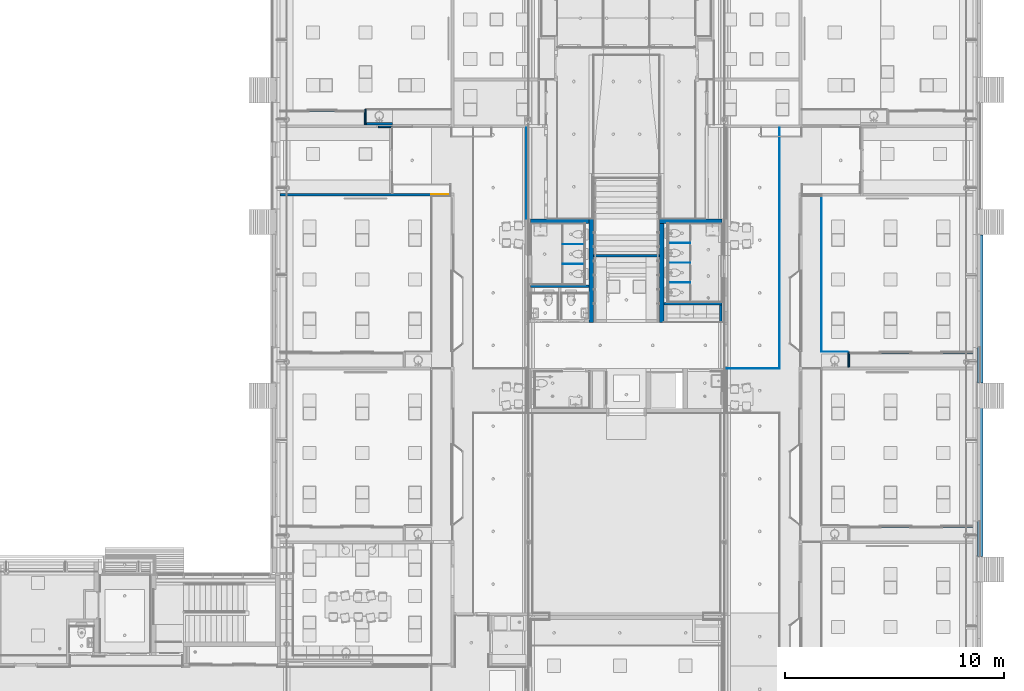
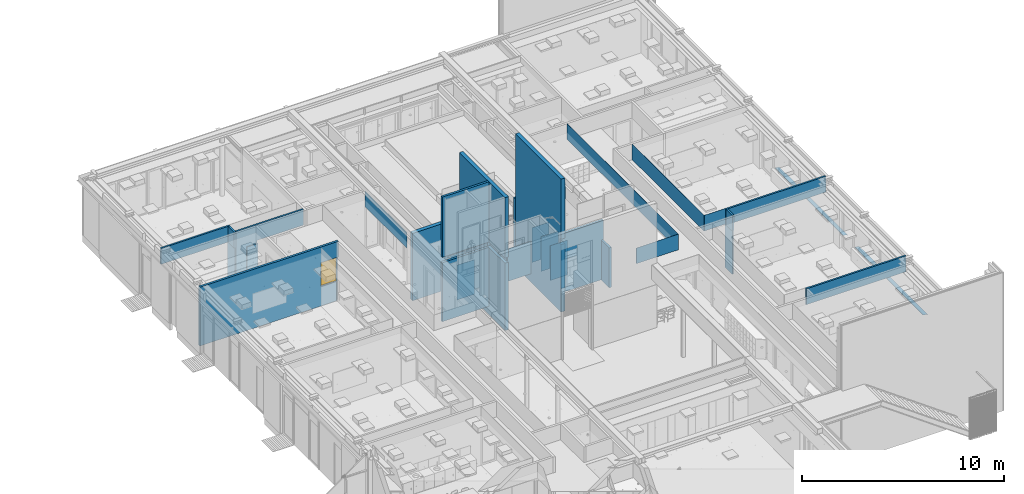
# One storey, part 78 of 347: 30 walls, 1 window, 2 openings.
"""IFC2X3 building model written with IfcOpenShell, lengths in millimetres."""

from ifc_helpers import new_model, entity, si_unit, converted_unit, derived_unit, money_unit, direction, frame, origin_with_axes, place, context, subcontext, project, spatial, open_shell, faceted_brep, surface_model, material, type_object, element, fill, save


model = new_model("IFC2X3")

# Units and contexts
model_context = context("Model", 3, precision=0.01, world=origin_with_axes(), true_north=direction((0.0, 1.0)))
plan_context = context("Plan", 3, precision=0.01, world=origin_with_axes(), true_north=direction((0.0, 1.0)))
body_context = subcontext(model_context, "Body", "Model", "MODEL_VIEW")
ifc_project = project(units=[si_unit("LENGTHUNIT", "METRE", prefix="MILLI"), si_unit("AREAUNIT", "SQUARE_METRE"), si_unit("VOLUMEUNIT", "CUBIC_METRE"), converted_unit("PLANEANGLEUNIT", "DEGREE", entity("IfcPlaneAngleMeasure", 0.0174532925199), si_unit("PLANEANGLEUNIT", "RADIAN"), dimensions=[0, 0, 0, 0, 0, 0, 0]), money_unit("EUR"), converted_unit("TIMEUNIT", "Year", entity("IfcTimeMeasure", 31556926.0), si_unit("TIMEUNIT", "SECOND"), dimensions=[0, 0, 1, 0, 0, 0, 0]), si_unit("MASSUNIT", "GRAM", prefix="KILO"), si_unit("THERMODYNAMICTEMPERATUREUNIT", "DEGREE_CELSIUS"), si_unit("LUMINOUSINTENSITYUNIT", "LUMEN"), si_unit("ENERGYUNIT", "JOULE", prefix="MEGA"), derived_unit("THERMALCONDUCTANCEUNIT", [(si_unit("POWERUNIT", "WATT"), 1), (si_unit("LENGTHUNIT", "METRE"), -1), (si_unit("THERMODYNAMICTEMPERATUREUNIT", "KELVIN"), -1)]), derived_unit("SPECIFICHEATCAPACITYUNIT", [(si_unit("ENERGYUNIT", "JOULE"), 1), (si_unit("MASSUNIT", "GRAM", prefix="KILO"), -1), (si_unit("THERMODYNAMICTEMPERATUREUNIT", "KELVIN"), -1)]), derived_unit("MASSDENSITYUNIT", [(si_unit("MASSUNIT", "GRAM", prefix="KILO"), 1), (si_unit("VOLUMEUNIT", "CUBIC_METRE"), -1)])], contexts=[model_context, plan_context])

# Site, building, storey
site_placement = place(None, origin_with_axes())
site = spatial("IfcSite", under=ifc_project, at=site_placement, Name="Site", CompositionType="ELEMENT")
building_placement = place(site_placement, origin_with_axes())
building = spatial("IfcBuilding", under=site, at=building_placement, Name="Naam gebouw", CompositionType="ELEMENT")
storey_placement = place(building_placement, origin_with_axes())
storey = spatial("IfcBuildingStorey", under=building, at=storey_placement, Name="begane grond", CompositionType="ELEMENT", Elevation=0.0)

# Walls
ifc_material_1 = material(Name="Beton gewapend prefab wand")
wall_type_1 = type_object("IfcWallType", Name="Betonwand 200 210", PredefinedType="NOTDEFINED")
wall_1_placement = place(storey_placement, frame((38575.0, 30074.9999277, -510.0), z_axis=(0.0, 0.0, 1.0), x_axis=(0.0, 1.0, 0.0)))
element("IfcWall", 1, at=wall_1_placement, inside=storey, type_object=wall_type_1, material=ifc_material_1, Name="21_21 betonwand", context=body_context, shape_type="Brep", body=[
    faceted_brep([(4515.00007235, 0.0, 4070.0), (4515.00007235, 60.000071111, 4070.0), (4515.00007235, 60.000071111, 4390.0), (4515.00007235, 210.0, 4390.0), (4515.00007235, 210.0, 8030.0), (4515.00007235, 0.0, 8030.0), (4725.00007235, 0.0, 4070.0), (4725.00007235, 210.0, 4070.0), (4515.00007235, 210.0, 4070.0), (3652.49995906, 210.0, 4070.0), (3652.49995906, 60.000071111, 4070.0), (3652.49995906, 60.000071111, 4390.0), (3652.49995906, 210.0, 4390.0), (4725.00007235, 210.0, 0.0), (0.0, 210.0, 0.0), (0.0, 210.0, 510.0), (0.0, 210.0, 4070.0), (1714.9999852, 210.0, 4070.0), (1714.9999852, 210.0, 4390.0), (0.0, 210.0, 4390.0), (0.0, 210.0, 8030.0), (0.0, 0.0, 8030.0), (0.0, 0.0, 4390.0), (124.999917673, 0.0, 4390.0), (124.999917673, 0.0, 4070.0), (0.0, 0.0, 4070.0), (0.0, 0.0, 510.0), (0.0, 0.0, 0.0), (4725.00007235, 0.0, 0.0), (124.999917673, 60.000071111, 4070.0), (1714.9999852, 60.000071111, 4070.0), (1714.9999852, 60.000071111, 4390.0), (124.999917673, 60.000071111, 4390.0)], [[[0, 1, 2, 3, 4, 5]], [[6, 7, 8, 9, 10, 1, 0]], [[10, 11, 2, 1]], [[11, 12, 3, 2]], [[3, 12, 9, 8, 7, 13, 14, 15, 16, 17, 18, 19, 20, 4]], [[5, 4, 20, 21]], [[22, 23, 24, 25, 26, 27, 28, 6, 0, 5, 21]], [[7, 6, 28, 13]], [[11, 10, 9, 12]], [[27, 14, 13, 28]], [[26, 25, 16, 15, 14, 27]], [[25, 24, 29, 30, 17, 16]], [[30, 31, 18, 17]], [[23, 22, 19, 18, 31, 32]], [[21, 20, 19, 22]], [[24, 23, 32, 29]], [[31, 30, 29, 32]]]),
])
wall_2_placement = place(storey_placement, frame((35705.0, 34590.0, -510.0), z_axis=(0.0, 0.0, 1.0), x_axis=(1.0, 0.0, 0.0)))
element("IfcWall", 2, at=wall_2_placement, inside=storey, type_object=wall_type_1, material=ifc_material_1, Name="21_GF 125 ECO DGS/2.75.2A", context=body_context, shape_type="Brep", body=[
    faceted_brep([(0.0, 0.0, 4070.0), (2660.0, 0.0, 4070.0), (2660.0, 210.0, 4070.0), (0.0, 210.0, 4070.0), (2660.0, 0.0, 0.0), (0.0, 0.0, 0.0), (2660.0, 210.0, 0.0), (0.0, 210.0, 0.0)], [[[0, 1, 2, 3]], [[4, 1, 0, 5]], [[6, 2, 1, 4]], [[3, 2, 6, 7]], [[5, 0, 3, 7]], [[7, 6, 4, 5]]]),
])
wall_3_placement = place(storey_placement, frame((44445.0, 34590.0, -510.0), z_axis=(0.0, 0.0, 1.0), x_axis=(-1.0, 0.0, 0.0)))
element("IfcWall", 3, at=wall_3_placement, inside=storey, type_object=wall_type_1, material=ifc_material_1, Name="21_GF 125 ECO DGS/2.75.2A", context=body_context, shape_type="Brep", body=[
    faceted_brep([(0.0, -210.0, 4070.0), (0.0, -210.0, 0.0), (2870.0, -210.0, 0.0), (2870.0, -210.0, 4070.0), (0.0, 0.0, 4070.0), (0.0, 0.0, 0.0), (2870.0, 0.0, 0.0), (2870.0, 0.0, 4070.0)], [[[0, 1, 2, 3]], [[0, 4, 5, 1]], [[2, 1, 5, 6]], [[3, 2, 6, 7]], [[7, 4, 0, 3]], [[6, 5, 4, 7]]]),
])
wall_4_placement = place(storey_placement, frame((41575.0, 30074.9999277, -510.0), z_axis=(0.0, 0.0, 1.0), x_axis=(0.0, 1.0, 0.0)))
element("IfcWall", 4, at=wall_4_placement, inside=storey, type_object=wall_type_1, material=ifc_material_1, Name="21_21 betonwand", context=body_context, shape_type="Brep", body=[
    faceted_brep([(3050.00009658, -210.0, 4390.0), (3050.00009658, -210.0, 4070.0), (0.0, -210.0, 4070.0), (0.0, -210.0, 510.0), (0.0, -210.0, 0.0), (4515.00007235, -210.0, 0.0), (4515.00007235, -210.0, 4070.0), (3652.499951, -210.0, 4070.0), (3652.499951, -210.0, 4390.0), (4515.00007235, -210.0, 4390.0), (4515.00007235, -210.0, 8030.0), (0.0, -210.0, 8030.0), (0.0, -210.0, 4470.0), (0.0, -210.0, 4390.0), (3050.00009658, -59.9999771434, 4070.0), (3050.00009658, -59.9999771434, 4390.0), (7.0558606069e-05, 0.0, 4070.0), (124.999917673, -59.9999771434, 4070.0), (124.999917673, 0.0, 4070.0), (0.0, 0.0, 510.0), (0.0, 0.0, 0.0), (4515.00007235, 0.0, 0.0), (4515.00007235, -59.9999771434, 4390.0), (4515.00007235, -59.9999771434, 4070.0), (4515.00007235, 0.0, 4070.0), (4515.00007235, 0.0, 8030.0), (3652.499951, -59.9999771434, 4070.0), (3652.499951, -59.9999771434, 4390.0), (0.0, 0.0, 8030.0), (7.0558606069e-05, 0.0, 4390.0), (0.0, 0.0, 4470.0), (124.999917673, 0.0, 4390.0), (124.999917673, -59.9999771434, 4390.0)], [[[0, 1, 2, 3, 4, 5, 6, 7, 8, 9, 10, 11, 12, 13]], [[14, 1, 0, 15]], [[16, 2, 1, 14, 17, 18]], [[3, 2, 16, 19, 20, 4]], [[4, 20, 21, 5]], [[22, 23, 6, 5, 21, 24, 25, 10, 9]], [[26, 7, 6, 23]], [[27, 8, 7, 26]], [[27, 22, 9, 8]], [[25, 28, 11, 10]], [[29, 13, 12, 11, 28, 30]], [[31, 32, 15, 0, 13, 29]], [[15, 32, 17, 14]], [[18, 17, 32, 31]], [[18, 31, 29, 30, 28, 25, 24, 21, 20, 19, 16]], [[26, 23, 22, 27]]]),
])

# Wall, opening, window
ifc_material_2 = material(Name="ALG - LICHTE SCHEIDINGSWAND")
wall_type_2 = type_object("IfcWallType", Name="ALG LSW 125 125", PredefinedType="NOTDEFINED")
wall_5_placement = place(storey_placement, frame((24275.0, 35900.0, 0.0), z_axis=(0.0, 0.0, 1.0), x_axis=(1.0, 0.0, 0.0)))
wall_5 = element("IfcWall", 5, at=wall_5_placement, inside=storey, type_object=wall_type_2, material=ifc_material_2, Name="22_GF 125 ECO DGS/2.75.2A", context=body_context, shape_type="Brep", body=[
    faceted_brep([(7800.0, -62.5, 2600.0), (7925.0, 62.5, 2600.0), (7793.0, 62.5, 2600.0), (7793.0, -62.5, 2600.0), (7925.0, 62.5, 0.0), (7800.0, -62.5, 0.0), (7792.99999773, 62.5, 0.0), (7793.0, 62.5, 1200.0), (7793.0, 10.0, 1200.0), (7793.0, -6.49999996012, 1200.0), (7793.0, -62.5000194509, 1200.0), (7793.0, -62.5, 0.0), (7793.0, -61.5, 0.0), (6900.0, -61.5, 0.0), (6900.0, -62.5, 0.0), (8.19563794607e-06, -62.5, -3.65078798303e-05), (8.19563794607e-06, 62.5, -3.65078798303e-05), (7770.99999773, 62.5, 0.0), (7770.99999773, 6.50003010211, 0.0), (7792.99999773, 6.50003010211, 0.0), (7792.99999773, 6.50003010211, 1178.0), (7792.99999773, 10.0, 1178.0), (6900.0, 10.0, 1200.0), (6900.0, -6.49999996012, 1200.0), (7793.0, -6.49999996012, 1175.0), (7793.0, -61.5, 1175.0), (6900.0, -61.5, 1175.0), (6900.00001931, -6.49999996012, 1175.0), (6900.0, -62.5000194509, 1200.0), (6900.0, -62.5, 2600.0), (6900.0, -62.5, 2612.0), (7925.0, -62.5, 2612.0), (7925.0, -62.5, 3559.99999996), (8.19563794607e-06, -62.5, 3560.0), (8.19563794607e-06, 62.5, 3560.0), (7925.0, 62.5, 3559.99999996), (7925.0, 62.5, 2612.0), (6900.0, 62.5, 2612.0), (6900.0, 62.5, 2600.0), (6900.0, 62.5, 1200.0), (6900.0000178, 62.5, 1178.0), (7770.99999773, 62.5, 1178.0), (7770.99999773, 10.0, 1178.0), (7770.99999773, 6.50003010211, 1178.0), (6900.0000178, 10.0, 1178.0)], [[[0, 1, 2, 3]], [[4, 1, 0, 5]], [[1, 4, 6, 7, 2]], [[7, 8, 9, 10, 3, 2]], [[5, 0, 3, 10, 11]], [[4, 5, 11, 12, 13, 14, 15, 16, 17, 18, 19, 6]], [[6, 19, 20, 21, 8, 7]], [[9, 8, 22, 23]], [[11, 10, 9, 24, 25, 12]], [[25, 26, 13, 12]], [[27, 23, 28, 14, 13, 26]], [[14, 28, 29, 30, 31, 32, 33, 15]], [[33, 34, 16, 15]], [[34, 35, 36, 37, 38, 39, 40, 41, 17, 16]], [[42, 43, 18, 17, 41]], [[19, 18, 43, 20]], [[42, 21, 20, 43]], [[44, 22, 8, 21, 42]], [[38, 29, 28, 23, 22, 39]], [[24, 9, 23, 27]], [[26, 25, 24, 27]], [[30, 29, 38, 37]], [[37, 36, 31, 30]], [[31, 36, 35, 32]], [[35, 34, 33, 32]], [[39, 22, 44, 40]], [[42, 41, 40, 44]]]),
])
opening_1_placement = place(wall_5_placement, frame((7346.5, 0.0, 1200.0), z_axis=(0.0, 0.0, 1.0), x_axis=(1.0, 0.0, 0.0)))
opening_1 = element("IfcOpeningElement", 6, at=opening_1_placement, cuts=wall_5, Name="31_11.02", context=body_context, shape_type="Brep", body=[
    faceted_brep([(-446.5, 10.0, 1400.0), (-446.5, 10.0, 0.0), (-446.5, -187.5, 0.0), (-446.5, -187.5, 1400.0), (446.5, 10.0, 1400.0), (446.5, 10.0, 0.0), (446.5, -187.5, 0.0), (446.5, -187.5, 1400.0)], [[[0, 1, 2, 3]], [[0, 4, 5, 1]], [[1, 5, 6, 2]], [[3, 2, 6, 7]], [[4, 0, 3, 7]], [[5, 4, 7, 6]]]),
    faceted_brep([(-446.5, 10.0, 0.0), (-446.5, 10.0, 1400.0), (-446.5, 187.5, 1400.0), (-446.5, 187.5, 0.0), (446.5, 10.0, 0.0), (446.5, 10.0, 1400.0), (446.5, 187.5, 1400.0), (446.5, 187.5, 0.0)], [[[0, 1, 2, 3]], [[0, 4, 5, 1]], [[1, 5, 6, 2]], [[3, 2, 6, 7]], [[4, 0, 3, 7]], [[5, 4, 7, 6]]]),
])
window_style = type_object("IfcWindowStyle", Name="R1 25", ConstructionType="NOTDEFINED", OperationType="SINGLE_PANEL", ParameterTakesPrecedence=False, Sizeable=False)
window_placement = place(opening_1_placement, frame((-446.5, 0.0, 0.0), z_axis=(0.0, 0.0, 1.0), x_axis=(1.0, 0.0, 0.0)))
window = element("IfcWindow", 7, at=window_placement, inside=storey, type_object=window_style, Name="31_11.02", ObjectType="WINDOW", OverallHeight=1400.0, OverallWidth=893.0, context=body_context, shape_type="SurfaceModel", body=[
    faceted_brep([(873.0, -10.0, 1380.0), (893.0, -10.0, 1380.0), (893.0, 10.0, 1380.0), (873.0, 10.0, 1380.0), (873.0, -10.0, 20.0), (893.0, -10.0, 20.0), (893.0, 10.0, 20.0), (873.0, 10.0, 20.0)], [[[0, 1, 2, 3]], [[0, 4, 5, 1]], [[1, 5, 6, 2]], [[3, 2, 6, 7]], [[4, 0, 3, 7]], [[5, 4, 7, 6]]]),
    faceted_brep([(20.0, -10.0, 20.0), (0.0, -10.0, 20.0), (0.0, 10.0, 20.0), (20.0, 10.0, 20.0), (20.0, -10.0, 1380.0), (0.0, -10.0, 1380.0), (0.0, 10.0, 1380.0), (20.0, 10.0, 1380.0)], [[[0, 1, 2, 3]], [[0, 4, 5, 1]], [[1, 5, 6, 2]], [[3, 2, 6, 7]], [[4, 0, 3, 7]], [[5, 4, 7, 6]]]),
    faceted_brep([(873.0, -10.0, 20.0), (893.0, -10.0, 20.0), (893.0, 10.0, 20.0), (873.0, 10.0, 20.0), (20.0, -10.0, 20.0), (0.0, -10.0, 20.0), (0.0, -10.0, 0.0), (893.0, -10.0, 0.0), (893.0, 10.0, 0.0), (0.0, 10.0, 0.0), (0.0, 10.0, 20.0), (20.0, 10.0, 20.0)], [[[0, 1, 2, 3]], [[0, 4, 5, 6, 7, 1]], [[1, 7, 8, 2]], [[3, 2, 8, 9, 10, 11]], [[4, 0, 3, 11]], [[5, 4, 11, 10]], [[6, 5, 10, 9]], [[7, 6, 9, 8]]]),
    faceted_brep([(20.0, -10.0, 1380.0), (0.0, -10.0, 1380.0), (0.0, 10.0, 1380.0), (20.0, 10.0, 1380.0), (873.0, -10.0, 1380.0), (893.0, -10.0, 1380.0), (893.0, -10.0, 1400.0), (0.0, -10.0, 1400.0), (0.0, 10.0, 1400.0), (893.0, 10.0, 1400.0), (893.0, 10.0, 1380.0), (873.0, 10.0, 1380.0)], [[[0, 1, 2, 3]], [[0, 4, 5, 6, 7, 1]], [[1, 7, 8, 2]], [[3, 2, 8, 9, 10, 11]], [[4, 0, 3, 11]], [[5, 4, 11, 10]], [[6, 5, 10, 9]], [[7, 6, 9, 8]]]),
    surface_model("IfcShellBasedSurfaceModel", [(873.0, -10.0, 20.0), (873.0, -10.0, 1380.0), (20.0, -10.0, 1380.0), (20.0, -10.0, 20.0)], [open_shell([[[0, 1, 2, 3]]])]),
    surface_model("IfcShellBasedSurfaceModel", [(873.0, 10.0, 20.0), (20.0, 10.0, 20.0), (20.0, 10.0, 1380.0), (873.0, 10.0, 1380.0)], [open_shell([[[0, 1, 2, 3]]])]),
])
fill(opening_1, window)

# Walls
wall_6_placement = place(storey_placement, frame((35705.0, 31789.9999277, 0.0), z_axis=(0.0, 0.0, 1.0), x_axis=(1.0, 0.0, 0.0)))
element("IfcWall", 8, at=wall_6_placement, inside=storey, type_object=wall_type_2, material=ifc_material_2, Name="22_GF 125 ECO DGS/2.75.2A", context=body_context, shape_type="Brep", body=[
    faceted_brep([(0.0, 0.0, 0.0), (0.0, -1.47999941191e-05, 3560.0), (2660.0, -1.47999941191e-05, 3560.0), (2660.0, 0.0, 0.0), (0.0, -125.0, 0.0), (0.0, -125.0, 3560.0), (2660.0, -125.0, 3560.0), (2660.0, -125.0, 0.0)], [[[0, 1, 2, 3]], [[4, 5, 1, 0]], [[5, 6, 2, 1]], [[3, 2, 6, 7]], [[3, 7, 4, 0]], [[7, 6, 5, 4]]]),
    faceted_brep([(2660.0, -125.0, 7520.0), (2660.0, -125.0, 3880.0), (2660.0, -1.47999941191e-05, 3880.0), (2660.0, 0.0, 7520.0), (0.0, -125.0, 7520.0), (0.0, -125.0, 3880.0), (0.0, -1.47999941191e-05, 3880.0), (0.0, 0.0, 7520.0)], [[[0, 1, 2, 3]], [[4, 5, 1, 0]], [[5, 6, 2, 1]], [[3, 2, 6, 7]], [[0, 3, 7, 4]], [[7, 6, 5, 4]]]),
])
wall_7_placement = place(storey_placement, frame((38574.9999948, 33049.9999277, 0.0), z_axis=(0.0, 0.0, 1.0), x_axis=(1.0, 0.0, 0.0)))
element("IfcWall", 9, at=wall_7_placement, inside=storey, type_object=wall_type_2, material=ifc_material_2, Name="22_GF 125 ECO DGS/2.75.2A", context=body_context, shape_type="Brep", body=[
    faceted_brep([(5.1821444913e-06, 125.0, 1885.16499048), (3000.00000518, 125.0, 1885.16499048), (3000.00000518, 125.0, 0.0), (5.1821444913e-06, 125.0, 0.0), (3000.00000518, 83.3334056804, 1915.16493839), (5.1821444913e-06, 83.3334056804, 1915.16493839), (3000.00000518, 7.23471060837e-05, 1975.16493839), (3000.00000518, 0.0, 0.0), (5.1821444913e-06, 0.0, 0.0), (5.1821444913e-06, 7.23471060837e-05, 1975.16493839)], [[[0, 1, 2, 3]], [[4, 1, 0, 5]], [[4, 6, 7, 2, 1]], [[3, 2, 7, 8]], [[5, 0, 3, 8, 9]], [[6, 4, 5, 9]], [[6, 9, 8, 7]]]),
])
wall_8_placement = place(storey_placement, frame((44445.0, 30989.9999277, 0.0), z_axis=(0.0, 0.0, 1.0), x_axis=(-1.0, 0.0, 0.0)))
element("IfcWall", 10, at=wall_8_placement, inside=storey, type_object=wall_type_2, material=ifc_material_2, Name="22_GF 125 ECO DGS/2.75.2A", context=body_context, shape_type="Brep", body=[
    faceted_brep([(2660.0, 125.0, 0.0), (2660.0, 0.0, 0.0), (0.0, 0.0, 0.0), (0.0, 125.0, 0.0), (2660.0, 125.0, 3560.0), (2660.0, 0.0, 3560.0), (0.0, 0.0, 3560.0), (0.0, 125.0, 3560.0)], [[[0, 1, 2, 3]], [[1, 0, 4, 5]], [[1, 5, 6, 2]], [[7, 3, 2, 6]], [[4, 0, 3, 7]], [[5, 4, 7, 6]]]),
])
wall_type_3 = type_object("IfcWallType", Name="44 koof 50", PredefinedType="NOTDEFINED")
wall_9_placement = place(storey_placement, frame((47055.0, 38962.5, 2600.0), z_axis=(0.0, 0.0, 1.0), x_axis=(0.0, -1.0, 0.0)))
element("IfcWall", 11, at=wall_9_placement, inside=storey, type_object=wall_type_3, material=ifc_material_2, Name="21_22 betonwand", context=body_context, shape_type="Brep", body=[
    faceted_brep([(10999.5001387, 12.0, 960.0), (10999.5001387, 12.0, 12.0), (0.0, 12.0, 12.0), (0.0, 12.0, 960.0), (10999.5001387, 0.0, 960.0), (10999.5001387, 0.0, 12.0), (0.0, 0.0, 12.0), (0.0, 0.0, 960.0)], [[[0, 1, 2, 3]], [[4, 5, 1, 0]], [[6, 2, 1, 5]], [[3, 2, 6, 7]], [[7, 4, 0, 3]], [[6, 5, 4, 7]]]),
])
wall_10_placement = place(storey_placement, frame((35495.0, 39025.0, 2600.0), z_axis=(0.0, 0.0, 1.0), x_axis=(0.0, -1.0, 0.0)))
element("IfcWall", 12, at=wall_10_placement, inside=storey, type_object=wall_type_3, material=ifc_material_2, Name="21_22 betonwand", context=body_context, shape_type="Brep", body=[
    faceted_brep([(4225.0, 12.0, 960.0), (4225.0, 12.0, 12.0), (62.5004135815, 11.9999999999, 12.0), (62.5, 12.0, 960.0), (4225.0, 0.0, 960.0), (4225.0, 0.0, 12.0), (62.5004110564, 0.0, 12.0), (62.5, 0.0, 960.0)], [[[0, 1, 2, 3]], [[4, 5, 1, 0]], [[5, 6, 2, 1]], [[3, 2, 6, 7]], [[3, 7, 4, 0]], [[7, 6, 5, 4]]]),
])
wall_11_placement = place(storey_placement, frame((47055.0, 27974.9998613, 2600.0), z_axis=(0.0, 0.0, 1.0), x_axis=(-1.0, 0.0, 0.0)))
element("IfcWall", 13, at=wall_11_placement, inside=storey, type_object=wall_type_3, material=ifc_material_2, Name="21_22 betonwand", context=body_context, shape_type="Brep", body=[
    faceted_brep([(0.0, 12.0, 960.0), (0.0, 12.0, 12.0), (0.0, 0.0, 12.0), (0.0, 0.0, 960.0), (2400.00005485, 12.0, 960.0), (2399.99998171, 12.0, 12.0), (2399.99998171, 0.0, 12.0), (2400.00005485, 0.0, 960.0)], [[[0, 1, 2, 3]], [[4, 5, 1, 0]], [[5, 6, 2, 1]], [[3, 2, 6, 7]], [[0, 3, 7, 4]], [[7, 6, 5, 4]]]),
])
wall_12_placement = place(storey_placement, frame((48975.0, 28737.5, 2600.0), z_axis=(0.0, 0.0, 1.0), x_axis=(-2.70231331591e-09, 1.0, 0.0)))
element("IfcWall", 14, at=wall_12_placement, inside=storey, type_object=wall_type_3, material=ifc_material_2, Name="21_22 betonwand", context=body_context, shape_type="Brep", body=[
    faceted_brep([(-12.0, 3.24291704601e-08, 960.0), (-12.0, 3.24291704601e-08, 12.0), (7100.0, -1.91864089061e-05, 12.0), (7100.0, -1.91864231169e-05, 960.0), (-11.9999999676, 12.0000000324, 960.0), (-11.9999999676, 12.0000000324, 12.0), (7100.00000003, 11.9999808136, 12.0), (7100.00000003, 11.9999808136, 960.0)], [[[0, 1, 2, 3]], [[4, 5, 1, 0]], [[5, 6, 2, 1]], [[3, 2, 6, 7]], [[0, 3, 7, 4]], [[7, 6, 5, 4]]]),
])
wall_13_placement = place(storey_placement, frame((48975.0, 28737.5, 2600.0), z_axis=(0.0, 0.0, 1.0), x_axis=(1.0, 0.0, 0.0)))
element("IfcWall", 15, at=wall_13_placement, inside=storey, type_object=wall_type_3, material=ifc_material_2, Name="21_22 betonwand", context=body_context, shape_type="Brep", body=[
    faceted_brep([(1200.0, -12.0, 960.000000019), (1200.0, -12.0, 12.0), (1200.0, 0.0, 12.0), (1200.0, 0.0, 960.000000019), (3.24291704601e-08, -12.0, 960.0), (3.24291704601e-08, -12.0, 12.0), (0.0, 0.0, 12.0), (0.0, 0.0, 960.0)], [[[0, 1, 2, 3]], [[4, 5, 1, 0]], [[5, 6, 2, 1]], [[3, 2, 6, 7]], [[7, 4, 0, 3]], [[7, 6, 5, 4]]]),
])

# Wall, opening
wall_type_4 = type_object("IfcWallType", Name="ALG LSW 100", PredefinedType="NOTDEFINED")
wall_14_placement = place(storey_placement, frame((32075.0, 39187.5, 0.0), z_axis=(0.0, 0.0, 1.0), x_axis=(-1.0, 0.0, 0.0)))
wall_14 = element("IfcWall", 16, at=wall_14_placement, inside=storey, type_object=wall_type_4, material=ifc_material_2, Name="22_GF 125 ECO DGS/2.75.2A", context=body_context, shape_type="Brep", body=[
    faceted_brep([(2675.0, 100.0, 2600.0), (2675.0, 0.0, 2600.0), (2675.0, 0.0, 2612.0), (2675.0, 100.0, 2612.0), (2675.0, 0.0, 0.0), (2675.0, 100.0, 0.0), (3875.0, 0.0, 0.0), (3875.0, 0.0, 2600.0), (3875.0, 0.0, 3560.0), (0.0, 0.0, 3560.0), (0.0, 0.0, 2612.0), (0.0, 100.0, 2612.0), (0.0, 100.0, 3560.0), (3875.0, 100.0, 3560.0), (3875.0, 100.0, 2600.0), (3875.0, 100.0, 0.0)], [[[0, 1, 2, 3]], [[4, 1, 0, 5]], [[1, 4, 6, 7, 8, 9, 10, 2]], [[2, 10, 11, 3]], [[5, 0, 3, 11, 12, 13, 14, 15]], [[4, 5, 15, 6]], [[7, 6, 15, 14, 13, 8]], [[12, 9, 8, 13]], [[9, 12, 11, 10]]]),
])
opening_2_placement = place(wall_14_placement, frame((1337.5, 0.0, 0.0), z_axis=(0.0, 0.0, 1.0), x_axis=(1.0, 0.0, 0.0)))
element("IfcOpeningElement", 17, at=opening_2_placement, cuts=wall_14, Name="32_-", context=body_context, shape_type="Brep", body=[
    faceted_brep([(-1337.5, -200.0, 0.0), (-1337.5, -200.0, 2600.0), (-1337.5, 100.0, 2600.0), (-1337.5, 100.0, 0.0), (1337.5, -200.0, 0.0), (1337.5, -200.0, 2600.0), (1337.5, 100.0, 2600.0), (1337.5, 100.0, 0.0)], [[[0, 1, 2, 3]], [[0, 4, 5, 1]], [[1, 5, 6, 2]], [[3, 2, 6, 7]], [[4, 0, 3, 7]], [[5, 4, 7, 6]]]),
])

# Walls
ifc_material_3 = material(Name="Kunststof Kupan")
wall_type_5 = type_object("IfcWallType", Name="74 Kupan tussenwand 13 x 2100", PredefinedType="NOTDEFINED")
wall_15_placement = place(storey_placement, frame((42000.0001832, 33689.9998684, 0.0), z_axis=(0.0, 0.0, 1.0), x_axis=(1.0, -1.19205468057e-07, 0.0)))
element("IfcWall", 18, at=wall_15_placement, inside=storey, type_object=wall_type_5, material=ifc_material_3, Name="22_74 sanitaire wand", context=body_context, shape_type="Brep", body=[
    faceted_brep([(0.0, -6.5, 2250.0), (978.499905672, -6.5, 2249.99999255), (978.499904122, 6.5, 2249.99999255), (0.0, 6.5, 2250.0), (0.0, -6.5, 150.0), (978.499905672, -6.5, 150.0), (978.499904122, 6.5, 150.0), (0.0, 6.5, 150.0)], [[[0, 1, 2, 3]], [[4, 5, 1, 0]], [[5, 6, 2, 1]], [[3, 2, 6, 7]], [[4, 0, 3, 7]], [[7, 6, 5, 4]]]),
])
wall_16_placement = place(storey_placement, frame((42000.0000759, 32789.9997514, 0.0), z_axis=(0.0, 0.0, 1.0), x_axis=(1.0, -4.41445413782e-10, 0.0)))
element("IfcWall", 19, at=wall_16_placement, inside=storey, type_object=wall_type_5, material=ifc_material_3, Name="22_74 sanitaire wand", context=body_context, shape_type="Brep", body=[
    faceted_brep([(2.86348722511e-09, -6.5, 2250.0), (978.500012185, -6.49999956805, 2249.99999255), (978.500012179, 6.50000043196, 2249.99999255), (-2.87059265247e-09, 6.5, 2250.0), (2.86348722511e-09, -6.5, 150.0), (978.500012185, -6.49999956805, 150.0), (978.500012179, 6.50000043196, 150.0), (-2.87059265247e-09, 6.5, 150.0)], [[[0, 1, 2, 3]], [[4, 5, 1, 0]], [[5, 6, 2, 1]], [[3, 2, 6, 7]], [[4, 0, 3, 7]], [[7, 6, 5, 4]]]),
])
wall_17_placement = place(storey_placement, frame((38149.9998228, 33639.9998684, 0.0), z_axis=(0.0, 0.0, 1.0), x_axis=(-1.0, -1.19205468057e-07, 0.0)))
element("IfcWall", 20, at=wall_17_placement, inside=storey, type_object=wall_type_5, material=ifc_material_3, Name="22_74 sanitaire wand", context=body_context, shape_type="Brep", body=[
    faceted_brep([(0.0, -6.5, 150.0), (978.499910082, -6.5, 150.0), (978.499910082, -6.5, 2249.99999255), (0.0, -6.5, 2250.0), (0.0, 6.5, 150.0), (978.499911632, 6.5, 150.0), (978.499911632, 6.5, 2249.99999255), (0.0, 6.5, 2250.0)], [[[0, 1, 2, 3]], [[4, 5, 1, 0]], [[5, 6, 2, 1]], [[3, 2, 6, 7]], [[7, 4, 0, 3]], [[7, 6, 5, 4]]]),
])
wall_18_placement = place(storey_placement, frame((38149.9999301, 32739.9997514, 0.0), z_axis=(0.0, 0.0, 1.0), x_axis=(-1.0, -4.41445413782e-10, 0.0)))
element("IfcWall", 21, at=wall_18_placement, inside=storey, type_object=wall_type_5, material=ifc_material_3, Name="22_74 sanitaire wand", context=body_context, shape_type="Brep", body=[
    faceted_brep([(-2.87059265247e-09, -6.5, 150.0), (978.500018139, -6.50000043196, 150.0), (978.500018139, -6.50000043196, 2249.99999255), (-2.87059265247e-09, -6.5, 2250.0), (2.87059265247e-09, 6.5, 150.0), (978.500018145, 6.49999956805, 150.0), (978.500018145, 6.49999956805, 2249.99999255), (2.87059265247e-09, 6.5, 2250.0)], [[[0, 1, 2, 3]], [[4, 5, 1, 0]], [[5, 6, 2, 1]], [[3, 2, 6, 7]], [[7, 4, 0, 3]], [[7, 6, 5, 4]]]),
])
wall_19_placement = place(storey_placement, frame((42000.0000886, 31889.9997514, 0.0), z_axis=(0.0, 0.0, 1.0), x_axis=(1.0, -4.41445413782e-10, 0.0)))
element("IfcWall", 22, at=wall_19_placement, inside=storey, type_object=wall_type_5, material=ifc_material_3, Name="22_74 sanitaire wand", context=body_context, shape_type="Brep", body=[
    faceted_brep([(2.87059265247e-09, -6.5, 2250.0), (978.499999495, -6.49999956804, 2249.99999255), (978.49999949, 6.50000043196, 2249.99999255), (-2.87059265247e-09, 6.5, 2250.0), (2.87059265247e-09, -6.5, 150.0), (978.499999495, -6.49999956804, 150.0), (978.49999949, 6.50000043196, 150.0), (-2.87059265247e-09, 6.5, 150.0)], [[[0, 1, 2, 3]], [[4, 5, 1, 0]], [[5, 6, 2, 1]], [[3, 2, 6, 7]], [[4, 0, 3, 7]], [[7, 6, 5, 4]]]),
])
ifc_material_4 = material(Name="ALG - LICHTE SCHEIDINGSWAND - master")
wall_type_6 = type_object("IfcWallType", Name="ALG - LICHTE SCHEIDINGSWAND - master 60", PredefinedType="NOTDEFINED")
wall_20_placement = place(storey_placement, frame((29400.0, 39022.5, 0.0), z_axis=(0.0, 0.0, 1.0), x_axis=(-1.0, 0.0, 0.0)))
element("IfcWall", 23, at=wall_20_placement, inside=storey, type_object=wall_type_6, material=ifc_material_4, Name="22_GF 125 ECO DGS/2.75.2A", context=body_context, shape_type="Brep", body=[
    faceted_brep([(0.0, 0.0, 2510.0), (635.0, 0.0, 2510.0), (635.0, 60.0, 2510.0), (0.0, 60.0, 2510.0), (0.0, 0.0, 0.0), (635.0, 0.0, 0.0), (635.0, 60.0, 0.0), (0.0, 60.0, 0.0)], [[[0, 1, 2, 3]], [[4, 5, 1, 0]], [[2, 1, 5, 6]], [[3, 2, 6, 7]], [[4, 0, 3, 7]], [[7, 6, 5, 4]]]),
])
ifc_material_5 = material(Name="32 schuideur")
wall_type_7 = type_object("IfcWallType", Name="32 schuideur 60", PredefinedType="NOTDEFINED")
wall_21_placement = place(storey_placement, frame((28140.0, 39025.0, 0.0), z_axis=(0.0, 0.0, 1.0), x_axis=(0.0, 1.0, 0.0)))
element("IfcWall", 24, at=wall_21_placement, inside=storey, type_object=wall_type_7, material=ifc_material_5, Name="22_GF 100 RD/2.50.2.", context=body_context, shape_type="Brep", body=[
    faceted_brep([(62.5, -60.0, 2600.0), (762.5, -60.0, 2600.0), (762.5, 0.0, 2600.0), (62.5, 0.0, 2600.0), (62.5, -60.0, 0.0), (762.5, -60.0, 0.0), (762.5, 0.0, 0.0), (62.5, 0.0, 0.0)], [[[0, 1, 2, 3]], [[4, 5, 1, 0]], [[2, 1, 5, 6]], [[3, 2, 6, 7]], [[4, 0, 3, 7]], [[7, 6, 5, 4]]]),
])
wall_22_placement = place(storey_placement, frame((50235.0, 27975.0, 0.0), z_axis=(0.0, 0.0, 1.0), x_axis=(0.0, 1.0, 0.0)))
element("IfcWall", 25, at=wall_22_placement, inside=storey, type_object=wall_type_7, material=ifc_material_5, Name="22_GF 100 RD/2.50.2.", context=body_context, shape_type="Brep", body=[
    faceted_brep([(62.5, 60.0, 0.0), (762.5, 60.0, 0.0), (762.5, 0.0, 0.0), (62.5, 0.0, 0.0), (62.5, 60.0, 2600.0), (762.5, 60.0, 2600.0), (762.5, 0.0, 2600.0), (62.5, 0.0, 2600.0)], [[[0, 1, 2, 3]], [[4, 5, 1, 0]], [[2, 1, 5, 6]], [[3, 2, 6, 7]], [[4, 0, 3, 7]], [[7, 6, 5, 4]]]),
])
ifc_material_6 = material(Name="Metaal - Aluminium beige")
wall_type_8 = type_object("IfcWallType", Name="32 waterslag (negge 210mm) 252 x 90", PredefinedType="NOTDEFINED")
wall_23_placement = place(storey_placement, frame((56097.0000264, 19387.5, 720.0), z_axis=(0.0, 0.0, 1.0), x_axis=(0.0, 1.0, 0.0)))
element("IfcWall", 26, at=wall_23_placement, inside=storey, type_object=wall_type_8, material=ifc_material_6, Name="21_31 waterslag", context=body_context, shape_type="Brep", body=[
    faceted_brep([(0.0, 13.9991300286, -16.8402038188), (6774.99999949, 13.9991300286, -16.8402038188), (6774.99999949, -235.999895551, -36.8748605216), (0.0, -235.999895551, -36.8748605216), (0.0, 13.9991300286, 10.0000166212), (6774.99999949, 13.9991300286, 10.0000166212), (6774.99999949, 12.0001235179, 10.0000166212), (6774.99999949, 11.9992673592, -15.0003939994), (6774.99999949, -237.999900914, -35.0099705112), (6774.99999949, -237.999900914, -80.009969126), (6774.99999949, -222.999900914, -80.009969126), (6774.99999949, -222.999900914, -78.0099675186), (6774.99999949, -235.999895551, -78.0099675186), (0.0, -235.999895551, -78.0099675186), (0.0, -222.999900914, -78.0099675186), (0.0, -222.999900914, -80.009969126), (0.0, -237.999900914, -80.009969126), (0.0, -237.999900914, -35.0099705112), (0.0, 11.9992673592, -15.0003939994), (0.0, 12.0001235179, 10.0000166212)], [[[0, 1, 2, 3]], [[4, 5, 1, 0]], [[2, 1, 5, 6, 7, 8, 9, 10, 11, 12]], [[3, 2, 12, 13]], [[4, 0, 3, 13, 14, 15, 16, 17, 18, 19]], [[19, 6, 5, 4]], [[18, 7, 6, 19]], [[17, 8, 7, 18]], [[16, 9, 8, 17]], [[15, 10, 9, 16]], [[14, 11, 10, 15]], [[13, 12, 11, 14]]]),
])
wall_24_placement = place(storey_placement, frame((56097.0000264, 27312.5, 720.0), z_axis=(0.0, 0.0, 1.0), x_axis=(0.0, 1.0, 0.0)))
element("IfcWall", 27, at=wall_24_placement, inside=storey, type_object=wall_type_8, material=ifc_material_6, Name="21_31 waterslag", context=body_context, shape_type="Brep", body=[
    faceted_brep([(0.0, 13.9991300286, -16.8402038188), (6748.0, 13.9991300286, -16.8402038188), (6748.0, -235.999895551, -36.8748605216), (0.0, -235.999895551, -36.8748605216), (0.0, 13.9991300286, 10.0000166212), (6748.0, 13.9991300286, 10.0000166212), (6748.0, 12.0001235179, 10.0000166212), (6748.0, 11.9992673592, -15.0003939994), (6748.0, -237.999900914, -35.0099705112), (6748.0, -237.999900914, -80.009969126), (6748.0, -222.999900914, -80.009969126), (6748.0, -222.999900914, -78.0099675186), (6748.0, -235.999895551, -78.0099675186), (0.0, -235.999895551, -78.0099675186), (0.0, -222.999900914, -78.0099675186), (0.0, -222.999900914, -80.009969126), (0.0, -237.999900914, -80.009969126), (0.0, -237.999900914, -35.0099705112), (0.0, 11.9992673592, -15.0003939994), (0.0, 12.0001235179, 10.0000166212)], [[[0, 1, 2, 3]], [[4, 5, 1, 0]], [[2, 1, 5, 6, 7, 8, 9, 10, 11, 12]], [[3, 2, 12, 13]], [[4, 0, 3, 13, 14, 15, 16, 17, 18, 19]], [[19, 6, 5, 4]], [[18, 7, 6, 19]], [[17, 8, 7, 18]], [[16, 9, 8, 17]], [[15, 10, 9, 16]], [[14, 11, 10, 15]], [[13, 12, 11, 14]]]),
])
wall_type_9 = type_object("IfcWallType", Name="ALG LSW 100 kast 100", PredefinedType="NOTDEFINED")
wall_25_placement = place(storey_placement, frame((50175.0, 28737.5, 2600.0), z_axis=(0.0, 0.0, 1.0), x_axis=(1.0, 0.0, 0.0)))
element("IfcWall", 28, at=wall_25_placement, inside=storey, type_object=wall_type_9, material=ifc_material_2, Name="22_GF 125 ECO DGS/2.75.2A", context=body_context, shape_type="Brep", body=[
    faceted_brep([(0.0, -100.0, 960.000000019), (5700.00004853, -100.0, 960.0), (5700.00004858, 0.0, 960.0), (0.0, 0.0, 960.000000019), (5700.00004013, -100.0, -2.14525095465e-05), (0.0, -100.0, -4.06304323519e-07), (5700.00004022, 0.0, -2.14525095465e-05), (0.0, 0.0, -4.06304323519e-07)], [[[0, 1, 2, 3]], [[4, 1, 0, 5]], [[6, 2, 1, 4]], [[3, 2, 6, 7]], [[5, 0, 3, 7]], [[7, 6, 4, 5]]]),
])
wall_26_placement = place(storey_placement, frame((50175.0, 27975.0, 2600.0), z_axis=(0.0, 0.0, 1.0), x_axis=(0.0, 1.0, 0.0)))
element("IfcWall", 29, at=wall_26_placement, inside=storey, type_object=wall_type_9, material=ifc_material_2, Name="22_GF 125 ECO DGS/2.75.2A", context=body_context, shape_type="Brep", body=[
    faceted_brep([(662.5, -100.0, 960.0), (662.5, 0.0, 960.0), (62.5, 0.0, 960.0), (62.5, -100.0, 960.0), (662.5, -100.0, 0.0), (662.5, 0.0, 0.0), (62.5, 0.0, 0.0), (62.5, -100.0, 0.0)], [[[0, 1, 2, 3]], [[1, 0, 4, 5]], [[1, 5, 6, 2]], [[7, 3, 2, 6]], [[4, 0, 3, 7]], [[5, 4, 7, 6]]]),
])
wall_27_placement = place(storey_placement, frame((50175.0, 20812.5, 2600.0), z_axis=(0.0, 0.0, 1.0), x_axis=(1.0, 0.0, 0.0)))
element("IfcWall", 30, at=wall_27_placement, inside=storey, type_object=wall_type_9, material=ifc_material_2, Name="22_GF 125 ECO DGS/2.75.2A", context=body_context, shape_type="Brep", body=[
    faceted_brep([(0.0, -100.0, 960.000000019), (5700.00004492, -100.0, 960.0), (5700.00004497, 0.0, 960.0), (0.0, 0.0, 960.000000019), (5700.00003272, -100.0, -2.14525095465e-05), (0.0, -100.0, -4.06304323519e-07), (5700.00003281, 0.0, -2.14525095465e-05), (0.0, 0.0, -4.06304323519e-07)], [[[0, 1, 2, 3]], [[4, 1, 0, 5]], [[6, 2, 1, 4]], [[3, 2, 6, 7]], [[5, 0, 3, 7]], [[7, 6, 4, 5]]]),
])
wall_28_placement = place(storey_placement, frame((24275.0, 39787.5, 2600.0), z_axis=(0.0, 0.0, 1.0), x_axis=(1.0, 0.0, 0.0)))
element("IfcWall", 31, at=wall_28_placement, inside=storey, type_object=wall_type_9, material=ifc_material_2, Name="22_GF 125 ECO DGS/2.75.4A", context=body_context, shape_type="Brep", body=[
    faceted_brep([(3925.0, 0.0, 0.0), (8.1956450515e-06, 0.0, 0.0), (8.1956450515e-06, 0.0, 960.0), (3925.0, 0.0, 959.999999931), (3925.0, -100.0, 0.0), (8.1956450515e-06, -100.0, 0.0), (8.1956450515e-06, -100.0, 960.0), (3925.0, -100.0, 959.999999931)], [[[0, 1, 2, 3]], [[4, 5, 1, 0]], [[6, 2, 1, 5]], [[3, 2, 6, 7]], [[4, 0, 3, 7]], [[6, 5, 4, 7]]]),
])
wall_29_placement = place(storey_placement, frame((28200.0, 39787.5, 2600.0), z_axis=(0.0, 0.0, 1.0), x_axis=(0.0, -1.0, 0.0)))
element("IfcWall", 32, at=wall_29_placement, inside=storey, type_object=wall_type_9, material=ifc_material_2, Name="22_GF 125 ECO DGS/2.75.5A", context=body_context, shape_type="Brep", body=[
    faceted_brep([(700.0, -100.0, 960.0), (700.0, 0.0, 960.0), (100.0, 0.0, 960.0), (100.0, -100.0, 960.0), (700.0, -100.0, 0.0), (700.0, 0.0, 0.0), (100.0, 0.0, 0.0), (100.0, -100.0, 0.0)], [[[0, 1, 2, 3]], [[1, 0, 4, 5]], [[1, 5, 6, 2]], [[7, 3, 2, 6]], [[4, 0, 3, 7]], [[5, 4, 7, 6]]]),
])
wall_type_10 = type_object("IfcWallType", Name="ALG - LICHTE SCHEIDINGSWAND 120", PredefinedType="NOTDEFINED")
wall_30_placement = place(storey_placement, frame((44325.0, 30074.9998623, 0.0), z_axis=(0.0, 0.0, 1.0), x_axis=(0.0, 1.0, 0.0)))
element("IfcWall", 33, at=wall_30_placement, inside=storey, type_object=wall_type_10, material=ifc_material_2, Name="22_GF 125 ECO DGS/2.75.2A", context=body_context, shape_type="Brep", body=[
    faceted_brep([(790.00006534, -120.0, 2400.0), (790.00006534, 0.0, 2400.0), (0.0, 0.0, 2400.0), (0.0, -120.0, 2400.0), (790.00006534, -120.0, 0.0), (790.00006534, 0.0, 0.0), (0.0, 0.0, 0.0), (0.0, -120.0, 0.0)], [[[0, 1, 2, 3]], [[1, 0, 4, 5]], [[1, 5, 6, 2]], [[7, 3, 2, 6]], [[4, 0, 3, 7]], [[5, 4, 7, 6]]]),
])

save(model, "model.ifc")
